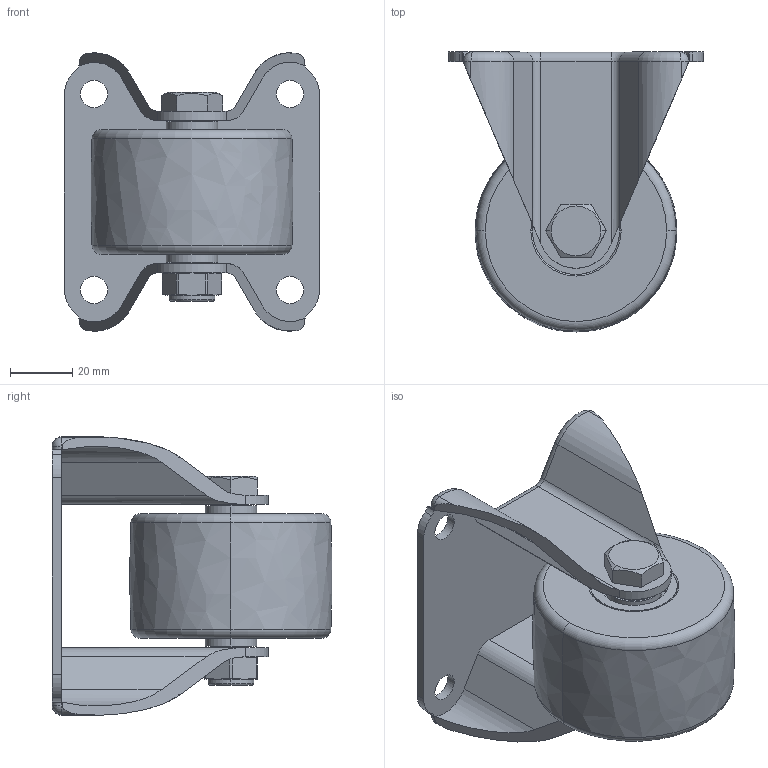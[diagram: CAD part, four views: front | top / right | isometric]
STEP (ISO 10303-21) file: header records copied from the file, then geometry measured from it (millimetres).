
FILE_DESCRIPTION((''),'2;1');
FILE_NAME('M433065-16_ASM','2022-01-15T',('lenovo'),(''),'PRO/ENGINEER BY PARAMETRIC TECHNOLOGY CORPORATION, 2010280','PRO/ENGINEER BY PARAMETRIC TECHNOLOGY CORPORATION, 2010280','');
FILE_SCHEMA(('CONFIG_CONTROL_DESIGN'));
Length unit declared in the file: millimetre
Products named in the file (9): M433065; M43065-916; 6001ZZ; 500-66; 640-54; M4365-16_ASM; M430-33; 640-34; M433065-16_ASM
Assembly tree (10 placements, depth 3):
  M433065-16_ASM
    M433065
    M4365-16_ASM
      M43065-916
      6001ZZ  x2
      500-66  x2
      640-54
    M430-33
    640-34
Bounding box: 82 x 89.96 x 89.5 mm (x, y, z)
Volume: 159750 mm3; surface area: 58915.1 mm2
Topology: 41 solids, 41 shells, 294 faces, 722 edges, 394 vertices
Faces by surface type: cylinder 112, sphere 64, plane 62, torus 30, cone 16, bspline 10
Entity records: 7521 total; most frequent: CARTESIAN_POINT 1971, DIRECTION 1220, ORIENTED_EDGE 1040, EDGE_CURVE 520, AXIS2_PLACEMENT_3D 517, VERTEX_POINT 332, EDGE_LOOP 266, CIRCLE 264
